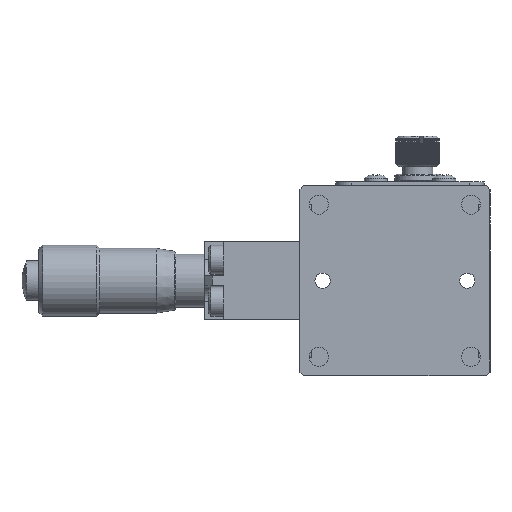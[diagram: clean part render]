
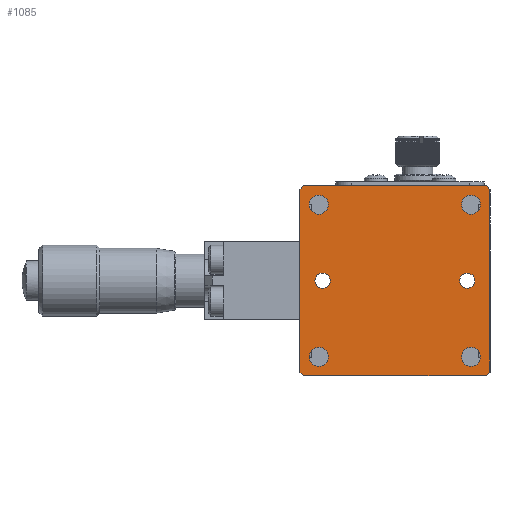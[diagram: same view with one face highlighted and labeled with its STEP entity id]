
A CAD part, front view. The second image highlights one B-rep face of the part: STEP entity #1085.
In plain terms, the highlighted planar face has unit normal (0, -1, 0).
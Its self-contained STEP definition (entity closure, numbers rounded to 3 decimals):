
#84 = CARTESIAN_POINT ( 'NONE',  ( 10., 0., 10. ) ) ;
#143 = ORIENTED_EDGE ( 'NONE', *, *, #32934, .T. ) ;
#194 = DIRECTION ( 'NONE',  ( 0., 0., -1. ) ) ;
#281 = ORIENTED_EDGE ( 'NONE', *, *, #6482, .T. ) ;
#391 = EDGE_CURVE ( 'NONE', #11508, #11508, #25892, .T. ) ;
#567 = CARTESIAN_POINT ( 'NONE',  ( 12.5, 0., 12. ) ) ;
#633 = ORIENTED_EDGE ( 'NONE', *, *, #26817, .F. ) ;
#721 = DIRECTION ( 'NONE',  ( 0., -1., 0. ) ) ;
#1085 = ADVANCED_FACE ( 'NONE', ( #17249, #33684, #23048, #16864, #10235, #16430, #27542 ), #19022, .T. ) ;
#1856 = EDGE_LOOP ( 'NONE', ( #31733, #8109, #29746, #143, #22793, #10239, #16830, #22304 ) ) ;
#2082 = AXIS2_PLACEMENT_3D ( 'NONE', #9822, #23091, #25942 ) ;
#2212 = LINE ( 'NONE', #10883, #19528 ) ;
#2703 = VECTOR ( 'NONE', #24039, 1000. ) ;
#2978 = CARTESIAN_POINT ( 'NONE',  ( -12.5, 0., 12.5 ) ) ;
#3187 = LINE ( 'NONE', #17392, #33166 ) ;
#3255 = CARTESIAN_POINT ( 'NONE',  ( 12.5, 0., -12. ) ) ;
#3647 = VECTOR ( 'NONE', #18554, 1000. ) ;
#4165 = DIRECTION ( 'NONE',  ( 0.707, 0., 0.707 ) ) ;
#4269 = ORIENTED_EDGE ( 'NONE', *, *, #9699, .T. ) ;
#4464 = CARTESIAN_POINT ( 'NONE',  ( -12.5, 0., -12. ) ) ;
#4988 = DIRECTION ( 'NONE',  ( 0., 0., -1. ) ) ;
#5014 = EDGE_CURVE ( 'NONE', #21858, #9177, #5652, .T. ) ;
#5456 = CARTESIAN_POINT ( 'NONE',  ( 9.5, 0., 1. ) ) ;
#5652 = LINE ( 'NONE', #24976, #30316 ) ;
#5995 = EDGE_LOOP ( 'NONE', ( #19450 ) ) ;
#6319 = EDGE_LOOP ( 'NONE', ( #4269 ) ) ;
#6357 = EDGE_CURVE ( 'NONE', #23870, #9177, #15027, .T. ) ;
#6482 = EDGE_CURVE ( 'NONE', #15630, #15630, #19594, .T. ) ;
#6892 = DIRECTION ( 'NONE',  ( 0., -1., 0. ) ) ;
#7374 = DIRECTION ( 'NONE',  ( 0., -1., 0. ) ) ;
#7754 = CARTESIAN_POINT ( 'NONE',  ( -10., 0., -8.75 ) ) ;
#7826 = AXIS2_PLACEMENT_3D ( 'NONE', #21321, #721, #23960 ) ;
#8109 = ORIENTED_EDGE ( 'NONE', *, *, #23411, .T. ) ;
#8680 = DIRECTION ( 'NONE',  ( -0.707, 0., 0.707 ) ) ;
#9107 = CARTESIAN_POINT ( 'NONE',  ( 10., 0., -10. ) ) ;
#9177 = VERTEX_POINT ( 'NONE', #29160 ) ;
#9325 = DIRECTION ( 'NONE',  ( 0., 0., 1. ) ) ;
#9410 = CARTESIAN_POINT ( 'NONE',  ( -12., 0., 12.5 ) ) ;
#9699 = EDGE_CURVE ( 'NONE', #31272, #31272, #15349, .T. ) ;
#9822 = CARTESIAN_POINT ( 'NONE',  ( -10., 0., -10. ) ) ;
#9860 = EDGE_LOOP ( 'NONE', ( #11093 ) ) ;
#10235 = FACE_BOUND ( 'NONE', #5995, .T. ) ;
#10239 = ORIENTED_EDGE ( 'NONE', *, *, #5014, .T. ) ;
#10245 = AXIS2_PLACEMENT_3D ( 'NONE', #14651, #12812, #33933 ) ;
#10795 = CARTESIAN_POINT ( 'NONE',  ( 12.5, 0., 12.5 ) ) ;
#10883 = CARTESIAN_POINT ( 'NONE',  ( -12.5, 0., 12.5 ) ) ;
#11027 = VERTEX_POINT ( 'NONE', #567 ) ;
#11093 = ORIENTED_EDGE ( 'NONE', *, *, #12031, .F. ) ;
#11411 = EDGE_LOOP ( 'NONE', ( #30448 ) ) ;
#11508 = VERTEX_POINT ( 'NONE', #20479 ) ;
#11673 = CIRCLE ( 'NONE', #19764, 1. ) ;
#12031 = EDGE_CURVE ( 'NONE', #22606, #22606, #21736, .T. ) ;
#12690 = AXIS2_PLACEMENT_3D ( 'NONE', #84, #28681, #194 ) ;
#12812 = DIRECTION ( 'NONE',  ( 0., 1., 0. ) ) ;
#12985 = EDGE_CURVE ( 'NONE', #21858, #22367, #2212, .T. ) ;
#13698 = LINE ( 'NONE', #10795, #18065 ) ;
#14651 = CARTESIAN_POINT ( 'NONE',  ( -9.5, 0., 0. ) ) ;
#15027 = LINE ( 'NONE', #2978, #2703 ) ;
#15073 = LINE ( 'NONE', #27849, #21289 ) ;
#15244 = CARTESIAN_POINT ( 'NONE',  ( -10., 0., 10. ) ) ;
#15349 = CIRCLE ( 'NONE', #2082, 1.25 ) ;
#15630 = VERTEX_POINT ( 'NONE', #25514 ) ;
#15779 = CARTESIAN_POINT ( 'NONE',  ( -12.25, 0., -12.25 ) ) ;
#16158 = VERTEX_POINT ( 'NONE', #5456 ) ;
#16216 = AXIS2_PLACEMENT_3D ( 'NONE', #15244, #23538, #4988 ) ;
#16430 = FACE_BOUND ( 'NONE', #29119, .T. ) ;
#16830 = ORIENTED_EDGE ( 'NONE', *, *, #6357, .F. ) ;
#16864 = FACE_BOUND ( 'NONE', #9860, .T. ) ;
#17193 = LINE ( 'NONE', #15779, #3647 ) ;
#17249 = FACE_BOUND ( 'NONE', #11411, .T. ) ;
#17280 = DIRECTION ( 'NONE',  ( -1., 0., 0. ) ) ;
#17392 = CARTESIAN_POINT ( 'NONE',  ( 12.25, 0., -12.25 ) ) ;
#18065 = VECTOR ( 'NONE', #29078, 1000. ) ;
#18554 = DIRECTION ( 'NONE',  ( 0.707, 0., -0.707 ) ) ;
#19022 = PLANE ( 'NONE',  #7826 ) ;
#19450 = ORIENTED_EDGE ( 'NONE', *, *, #24635, .T. ) ;
#19528 = VECTOR ( 'NONE', #31834, 1000. ) ;
#19594 = CIRCLE ( 'NONE', #10245, 1. ) ;
#19764 = AXIS2_PLACEMENT_3D ( 'NONE', #20996, #7374, #26137 ) ;
#20243 = EDGE_CURVE ( 'NONE', #23870, #26353, #17193, .T. ) ;
#20479 = CARTESIAN_POINT ( 'NONE',  ( -10., 0., 8.75 ) ) ;
#20482 = LINE ( 'NONE', #24488, #21695 ) ;
#20996 = CARTESIAN_POINT ( 'NONE',  ( 9.5, 0., 0. ) ) ;
#21289 = VECTOR ( 'NONE', #17280, 1000. ) ;
#21321 = CARTESIAN_POINT ( 'NONE',  ( 0., 0., 0. ) ) ;
#21543 = VERTEX_POINT ( 'NONE', #28327 ) ;
#21695 = VECTOR ( 'NONE', #8680, 1000. ) ;
#21736 = CIRCLE ( 'NONE', #32201, 1.25 ) ;
#21858 = VERTEX_POINT ( 'NONE', #9410 ) ;
#22304 = ORIENTED_EDGE ( 'NONE', *, *, #20243, .T. ) ;
#22367 = VERTEX_POINT ( 'NONE', #29608 ) ;
#22606 = VERTEX_POINT ( 'NONE', #28702 ) ;
#22793 = ORIENTED_EDGE ( 'NONE', *, *, #12985, .F. ) ;
#23014 = DIRECTION ( 'NONE',  ( -0.707, 0., -0.707 ) ) ;
#23048 = FACE_BOUND ( 'NONE', #6319, .T. ) ;
#23091 = DIRECTION ( 'NONE',  ( 0., 1., 0. ) ) ;
#23399 = EDGE_CURVE ( 'NONE', #31825, #26353, #15073, .T. ) ;
#23411 = EDGE_CURVE ( 'NONE', #31825, #32826, #3187, .T. ) ;
#23538 = DIRECTION ( 'NONE',  ( 0., -1., 0. ) ) ;
#23870 = VERTEX_POINT ( 'NONE', #4464 ) ;
#23960 = DIRECTION ( 'NONE',  ( 0., 0., -1. ) ) ;
#24039 = DIRECTION ( 'NONE',  ( 0., 0., 1. ) ) ;
#24138 = CARTESIAN_POINT ( 'NONE',  ( -12., 0., -12.5 ) ) ;
#24488 = CARTESIAN_POINT ( 'NONE',  ( 12.25, 0., 12.25 ) ) ;
#24635 = EDGE_CURVE ( 'NONE', #21543, #21543, #26166, .T. ) ;
#24976 = CARTESIAN_POINT ( 'NONE',  ( -12.25, 0., 12.25 ) ) ;
#25514 = CARTESIAN_POINT ( 'NONE',  ( -9.5, 0., 1. ) ) ;
#25892 = CIRCLE ( 'NONE', #16216, 1.25 ) ;
#25942 = DIRECTION ( 'NONE',  ( 0., 0., 1. ) ) ;
#26137 = DIRECTION ( 'NONE',  ( 0., 0., 1. ) ) ;
#26166 = CIRCLE ( 'NONE', #12690, 1.25 ) ;
#26353 = VERTEX_POINT ( 'NONE', #24138 ) ;
#26817 = EDGE_CURVE ( 'NONE', #16158, #16158, #11673, .T. ) ;
#27542 = FACE_BOUND ( 'NONE', #32004, .T. ) ;
#27849 = CARTESIAN_POINT ( 'NONE',  ( -12.5, 0., -12.5 ) ) ;
#28327 = CARTESIAN_POINT ( 'NONE',  ( 10., 0., 8.75 ) ) ;
#28681 = DIRECTION ( 'NONE',  ( 0., 1., 0. ) ) ;
#28702 = CARTESIAN_POINT ( 'NONE',  ( 10., 0., -8.75 ) ) ;
#29078 = DIRECTION ( 'NONE',  ( 0., 0., -1. ) ) ;
#29119 = EDGE_LOOP ( 'NONE', ( #281 ) ) ;
#29137 = CARTESIAN_POINT ( 'NONE',  ( 12., 0., -12.5 ) ) ;
#29160 = CARTESIAN_POINT ( 'NONE',  ( -12.5, 0., 12. ) ) ;
#29608 = CARTESIAN_POINT ( 'NONE',  ( 12., 0., 12.5 ) ) ;
#29746 = ORIENTED_EDGE ( 'NONE', *, *, #33335, .F. ) ;
#30316 = VECTOR ( 'NONE', #23014, 1000. ) ;
#30448 = ORIENTED_EDGE ( 'NONE', *, *, #391, .F. ) ;
#31272 = VERTEX_POINT ( 'NONE', #7754 ) ;
#31733 = ORIENTED_EDGE ( 'NONE', *, *, #23399, .F. ) ;
#31825 = VERTEX_POINT ( 'NONE', #29137 ) ;
#31834 = DIRECTION ( 'NONE',  ( 1., 0., 0. ) ) ;
#32004 = EDGE_LOOP ( 'NONE', ( #633 ) ) ;
#32201 = AXIS2_PLACEMENT_3D ( 'NONE', #9107, #6892, #9325 ) ;
#32826 = VERTEX_POINT ( 'NONE', #3255 ) ;
#32934 = EDGE_CURVE ( 'NONE', #11027, #22367, #20482, .T. ) ;
#33166 = VECTOR ( 'NONE', #4165, 1000. ) ;
#33335 = EDGE_CURVE ( 'NONE', #11027, #32826, #13698, .T. ) ;
#33684 = FACE_OUTER_BOUND ( 'NONE', #1856, .T. ) ;
#33933 = DIRECTION ( 'NONE',  ( 0., 0., 1. ) ) ;
